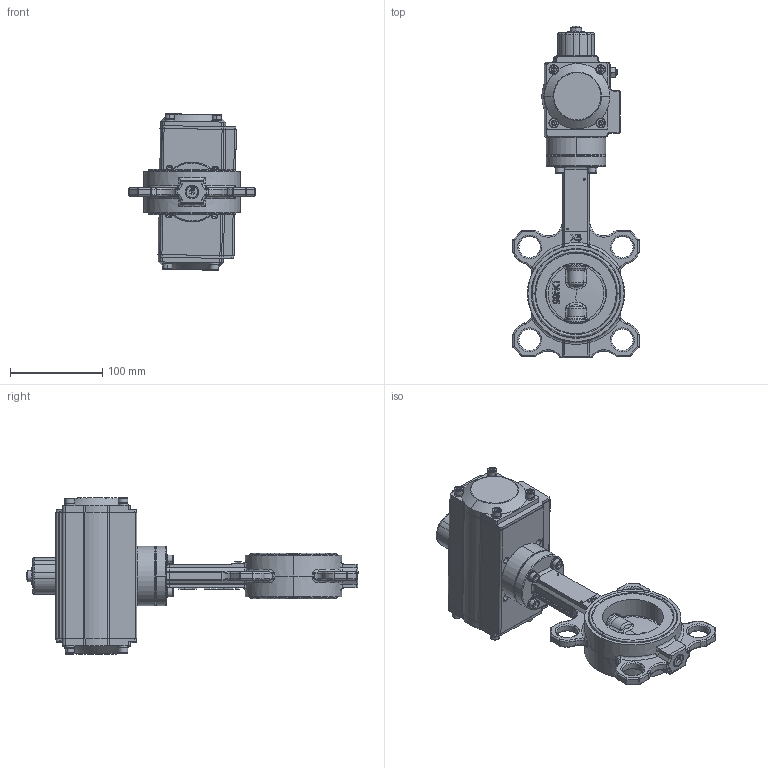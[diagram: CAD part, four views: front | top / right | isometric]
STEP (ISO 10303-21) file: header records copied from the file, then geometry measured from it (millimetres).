
FILE_DESCRIPTION (( 'STEP AP203' ), '1' );
FILE_NAME ('VPI-N03 DN 65.step', '2016-09-29T15:08:30', ( 'TECOFI' ), ( '' ), 'SwSTEP 2.0', 'SolidWorks 2014', '' );
FILE_SCHEMA (( 'CONFIG_CONTROL_DESIGN' ));
Products named in the file (1): VPI-N03 DN 65
Bounding box: 137 x 360.54 x 169.99 mm (x, y, z)
Surface area: 293593.1 mm2 (no closed solid volume)
Topology: 0 solids, 54 shells, 2913 faces, 7150 edges, 4419 vertices
Faces by surface type: plane 1040, cylinder 736, bspline 693, cone 400, torus 44
Entity records: 123177 total; most frequent: CARTESIAN_POINT 59667, ORIENTED_EDGE 14166, DIRECTION 11893, EDGE_CURVE 7089, AXIS2_PLACEMENT_3D 4451, VERTEX_POINT 4419, EDGE_LOOP 3138, LINE 2991
